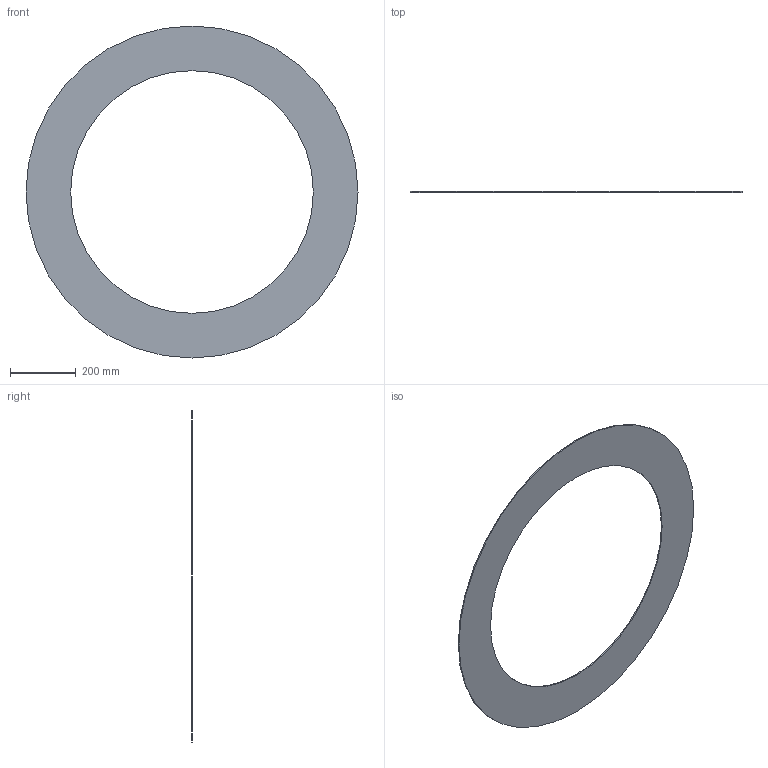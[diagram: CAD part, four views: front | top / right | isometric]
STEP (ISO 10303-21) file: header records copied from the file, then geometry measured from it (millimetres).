
FILE_DESCRIPTION(/* description */ ('Unknown'),/* implementation_level */ '2;1');
FILE_NAME(/* name */ 'GUA.900C',/* time_stamp */ '2021-04-01T14:42:14+02:00',/* author */ ('Unknown'),/* organization */ ('Unknown'),/* preprocessor_version */ 'ST-DEVELOPER v16.7',/* originating_system */ 'Solid Edge',/* authorisation */ 'Unknown');
FILE_SCHEMA (('AUTOMOTIVE_DESIGN {1 0 10303 214 3 1 1}'));
Length unit declared in the file: millimetre
Products named in the file (1): GUA.900C
Bounding box: 1011 x 3 x 1011 mm (x, y, z)
Volume: 1121548.6 mm3; surface area: 764192.4 mm2
Topology: 1 solids, 1 shells, 4 faces, 6 edges, 4 vertices
Faces by surface type: cylinder 2, plane 2
Full cylindrical faces by diameter (mm): 739 x1, 1011 x1
Entity records: 118 total; most frequent: DIRECTION 18, CARTESIAN_POINT 13, AXIS2_PLACEMENT_3D 9, ORIENTED_EDGE 8, EDGE_LOOP 8, FACE_BOUND 8, EDGE_CURVE 4, VERTEX_POINT 4
